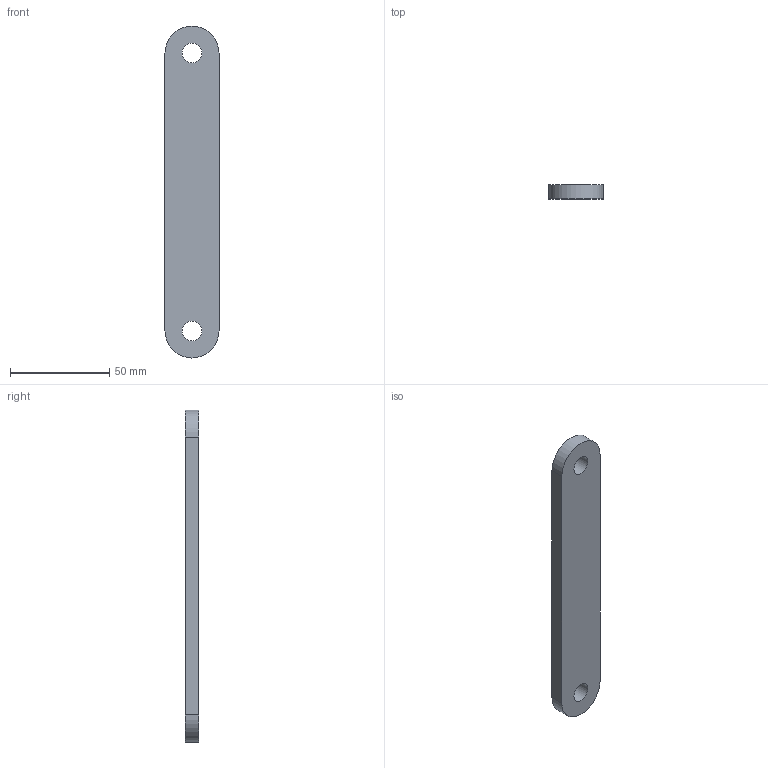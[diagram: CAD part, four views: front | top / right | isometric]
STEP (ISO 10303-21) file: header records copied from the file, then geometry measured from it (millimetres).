
FILE_DESCRIPTION(('Open CASCADE Model'),'2;1');
FILE_NAME('Q4-202','2026-10-08T13:25:55',('Author'),('Open CASCADE'), 'Open CASCADE STEP processor 8.0','build123d','Unknown');
FILE_SCHEMA(('AUTOMOTIVE_DESIGN { 1 0 10303 214 1 1 1 1 }'));
Length unit declared in the file: millimetre
Products named in the file (2): Q4-202
Assembly tree (1 placements, depth 2):
  Q4-202
    Q4-202
Bounding box: 27.2 x 7 x 167.2 mm (x, y, z)
Volume: 29623.9 mm3; surface area: 11462 mm2
Topology: 1 solids, 1 shells, 8 faces, 18 edges, 12 vertices
Faces by surface type: cylinder 4, plane 4
Full cylindrical faces by diameter (mm): 10 x2
Entity records: 500 total; most frequent: DIRECTION 82, CARTESIAN_POINT 76, LINE 38, VECTOR 38, ORIENTED_EDGE 36, PCURVE 36, DEFINITIONAL_REPRESENTATION 36, AXIS2_PLACEMENT_3D 18
